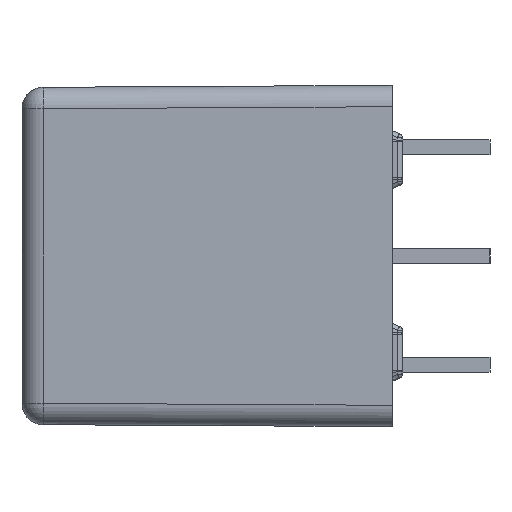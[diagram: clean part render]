
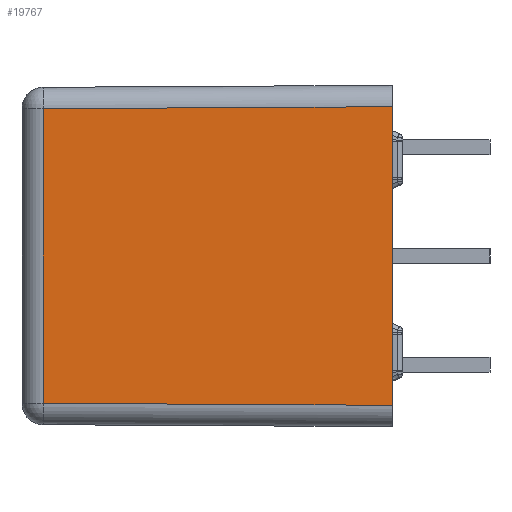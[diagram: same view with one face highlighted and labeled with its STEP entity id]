
A CAD part, left-side view. The second image highlights one B-rep face of the part: STEP entity #19767.
In plain terms, the highlighted planar face has unit normal (-1, 0.006, 0).
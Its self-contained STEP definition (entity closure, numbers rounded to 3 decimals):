
#422 = EDGE_LOOP ( 'NONE', ( #10616, #11939, #24665, #16670 ) ) ;
#711 = FACE_OUTER_BOUND ( 'NONE', #422, .T. ) ;
#824 = VERTEX_POINT ( 'NONE', #19425 ) ;
#1754 = CARTESIAN_POINT ( 'NONE',  ( -28.925, 8.85, -6.975 ) ) ;
#2741 = CARTESIAN_POINT ( 'NONE',  ( -28.834, 25.156, -6.884 ) ) ;
#2968 = PLANE ( 'NONE',  #5533 ) ;
#3033 = DIRECTION ( 'NONE',  ( 0., 0., -1. ) ) ;
#4505 = VECTOR ( 'NONE', #19112, 1000. ) ;
#5153 = CARTESIAN_POINT ( 'NONE',  ( -28.925, 8.85, 7.975 ) ) ;
#5533 = AXIS2_PLACEMENT_3D ( 'NONE', #18270, #20566, #18414 ) ;
#6841 = VERTEX_POINT ( 'NONE', #1754 ) ;
#8262 = CARTESIAN_POINT ( 'NONE',  ( -28.925, 8.844, 6.975 ) ) ;
#8605 = LINE ( 'NONE', #5153, #21283 ) ;
#10397 = DIRECTION ( 'NONE',  ( 0.006, 1., -0.006 ) ) ;
#10616 = ORIENTED_EDGE ( 'NONE', *, *, #16821, .T. ) ;
#11939 = ORIENTED_EDGE ( 'NONE', *, *, #13567, .T. ) ;
#12299 = LINE ( 'NONE', #14849, #4505 ) ;
#12372 = LINE ( 'NONE', #8262, #19062 ) ;
#13567 = EDGE_CURVE ( 'NONE', #824, #18290, #12299, .T. ) ;
#13667 = EDGE_CURVE ( 'NONE', #21245, #6841, #8605, .T. ) ;
#14849 = CARTESIAN_POINT ( 'NONE',  ( -28.834, 25.156, 7.975 ) ) ;
#16670 = ORIENTED_EDGE ( 'NONE', *, *, #13667, .F. ) ;
#16821 = EDGE_CURVE ( 'NONE', #21245, #824, #12372, .T. ) ;
#17191 = DIRECTION ( 'NONE',  ( -0.006, -1., -0.006 ) ) ;
#18270 = CARTESIAN_POINT ( 'NONE',  ( -28.925, 8.85, 7.975 ) ) ;
#18290 = VERTEX_POINT ( 'NONE', #2741 ) ;
#18414 = DIRECTION ( 'NONE',  ( -0.006, -1., 0. ) ) ;
#19062 = VECTOR ( 'NONE', #10397, 1000. ) ;
#19112 = DIRECTION ( 'NONE',  ( 0., 0., -1. ) ) ;
#19425 = CARTESIAN_POINT ( 'NONE',  ( -28.834, 25.156, 6.884 ) ) ;
#19767 = ADVANCED_FACE ( 'NONE', ( #711 ), #2968, .T. ) ;
#20566 = DIRECTION ( 'NONE',  ( -1., 0.006, 0. ) ) ;
#20679 = VECTOR ( 'NONE', #17191, 1000. ) ;
#21245 = VERTEX_POINT ( 'NONE', #25056 ) ;
#21283 = VECTOR ( 'NONE', #3033, 1000. ) ;
#23599 = CARTESIAN_POINT ( 'NONE',  ( -28.925, 8.844, -6.975 ) ) ;
#24315 = EDGE_CURVE ( 'NONE', #18290, #6841, #25974, .T. ) ;
#24665 = ORIENTED_EDGE ( 'NONE', *, *, #24315, .T. ) ;
#25056 = CARTESIAN_POINT ( 'NONE',  ( -28.925, 8.85, 6.975 ) ) ;
#25974 = LINE ( 'NONE', #23599, #20679 ) ;
